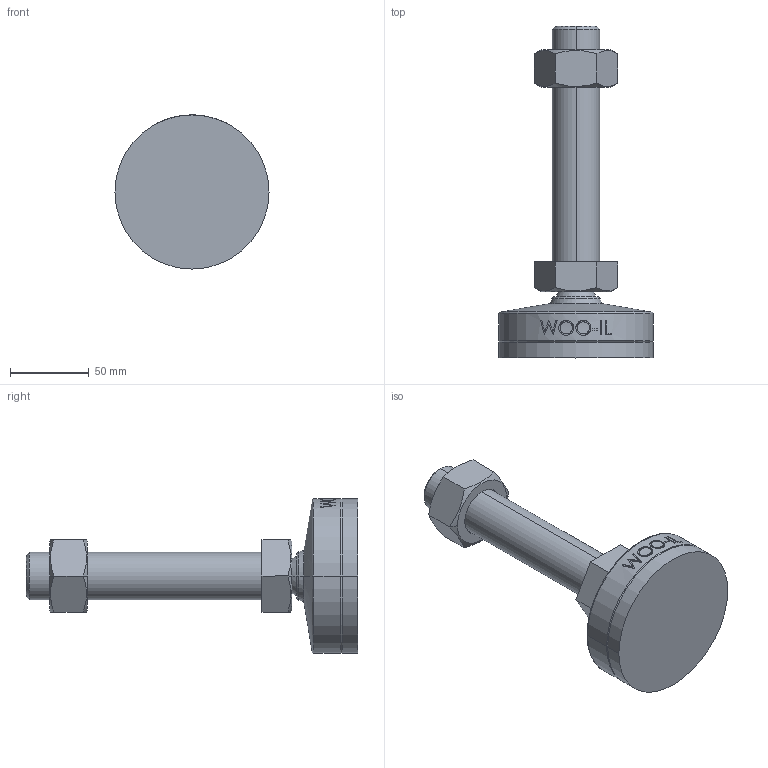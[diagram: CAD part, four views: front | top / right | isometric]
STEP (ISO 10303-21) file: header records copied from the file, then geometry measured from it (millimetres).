
FILE_DESCRIPTION (( 'STEP AP214' ), '1' );
FILE_NAME ('MFNR98-M30-150.step', '2021-02-22T09:09:52', ( '' ), ( '' ), 'SwSTEP 2.0', 'SolidWorks 2019', '' );
FILE_SCHEMA (( 'AUTOMOTIVE_DESIGN' ));
Length unit declared in the file: millimetre
Products named in the file (2): MFNR98-M30-150
Bounding box: 98 x 211 x 98 mm (x, y, z)
Volume: 410248 mm3; surface area: 52758.6 mm2
Topology: 2 solids, 2 shells, 103 faces, 239 edges, 152 vertices
Faces by surface type: plane 47, cone 18, cylinder 16, bspline 16, torus 4, sphere 2
Entity records: 4543 total; most frequent: CARTESIAN_POINT 2264, ORIENTED_EDGE 478, DIRECTION 423, EDGE_CURVE 239, AXIS2_PLACEMENT_3D 161, VERTEX_POINT 152, EDGE_LOOP 117, ADVANCED_FACE 103
